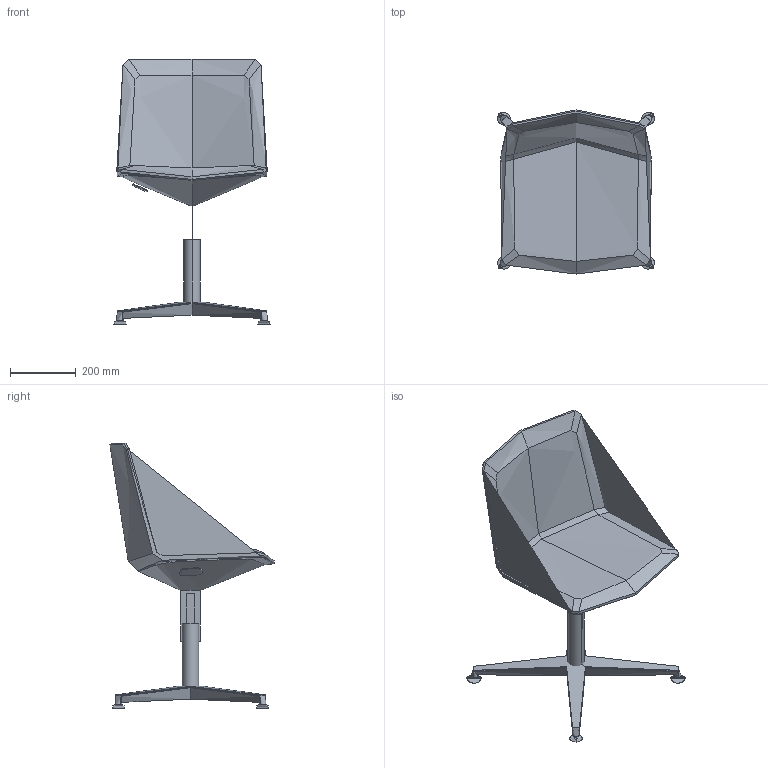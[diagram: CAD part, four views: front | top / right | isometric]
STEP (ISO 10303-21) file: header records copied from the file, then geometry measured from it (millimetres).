
FILE_DESCRIPTION(/* description */ (''),/* implementation_level */ '2;1');
FILE_NAME(/* name */ 'SKYFRE~1',/* time_stamp */ '2016-02-19T12:33:05+01:00',/* author */ (''),/* organization */ (''),/* preprocessor_version */ 'ST-DEVELOPER v15',/* originating_system */ '',/* authorisation */ '');
FILE_SCHEMA (('CONFIG_CONTROL_DESIGN'));
Length unit declared in the file: millimetre
Products named in the file (1): Document
Bounding box: 476.4 x 498.83 x 807.23 mm (x, y, z)
Volume: 9792640.5 mm3; surface area: 1116661.3 mm2
Topology: 2 solids, 15 shells, 153 faces, 363 edges, 210 vertices
Faces by surface type: bspline 133, plane 20
Entity records: 18299 total; most frequent: CARTESIAN_POINT 16110, ORIENTED_EDGE 632, EDGE_CURVE 352, B_SPLINE_CURVE_WITH_KNOTS 255, VERTEX_POINT 210, ADVANCED_FACE 153, FACE_OUTER_BOUND 153, EDGE_LOOP 153
